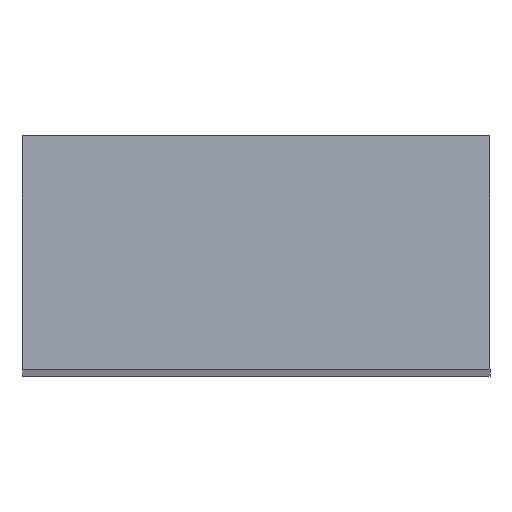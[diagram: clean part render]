
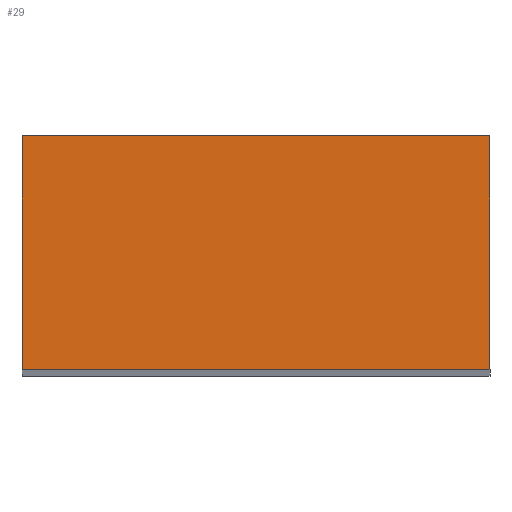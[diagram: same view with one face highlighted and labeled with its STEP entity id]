
A CAD part, top view. The second image highlights one B-rep face of the part: STEP entity #29.
In plain terms, the highlighted planar face has unit normal (0, 0, 1).
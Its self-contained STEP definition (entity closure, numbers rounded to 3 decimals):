
#29=ADVANCED_FACE('',(#35),#187,.T.);
#35=FACE_OUTER_BOUND('',#41,.T.);
#41=EDGE_LOOP('',(#62,#63,#64,#65));
#62=ORIENTED_EDGE('',*,*,#128,.F.);
#63=ORIENTED_EDGE('',*,*,#132,.F.);
#64=ORIENTED_EDGE('',*,*,#135,.F.);
#65=ORIENTED_EDGE('',*,*,#137,.F.);
#68=PCURVE('',#182,#92);
#72=PCURVE('',#183,#96);
#76=PCURVE('',#184,#100);
#80=PCURVE('',#185,#104);
#86=PCURVE('',#187,#110);
#87=PCURVE('',#187,#111);
#88=PCURVE('',#187,#112);
#89=PCURVE('',#187,#113);
#92=DEFINITIONAL_REPRESENTATION('',(#143),#313);
#96=DEFINITIONAL_REPRESENTATION('',(#151),#313);
#100=DEFINITIONAL_REPRESENTATION('',(#158),#313);
#104=DEFINITIONAL_REPRESENTATION('',(#164),#313);
#110=DEFINITIONAL_REPRESENTATION('',(#170),#313);
#111=DEFINITIONAL_REPRESENTATION('',(#171),#313);
#112=DEFINITIONAL_REPRESENTATION('',(#172),#313);
#113=DEFINITIONAL_REPRESENTATION('',(#173),#313);
#116=SURFACE_CURVE('',#142,(#68,#86),.PCURVE_S1.);
#120=SURFACE_CURVE('',#150,(#72,#87),.PCURVE_S1.);
#123=SURFACE_CURVE('',#157,(#76,#88),.PCURVE_S1.);
#125=SURFACE_CURVE('',#163,(#80,#89),.PCURVE_S1.);
#128=EDGE_CURVE('',#176,#177,#116,.T.);
#132=EDGE_CURVE('',#179,#176,#120,.T.);
#135=EDGE_CURVE('',#181,#179,#123,.T.);
#137=EDGE_CURVE('',#177,#181,#125,.T.);
#142=B_SPLINE_CURVE_WITH_KNOTS('',1,(#248,#249),.UNSPECIFIED.,.F.,.F.,(2,
2),(-18.,0.),.UNSPECIFIED.);
#143=B_SPLINE_CURVE_WITH_KNOTS('',1,(#250,#251),.UNSPECIFIED.,.F.,.F.,(2,
2),(-18.,0.),.UNSPECIFIED.);
#150=B_SPLINE_CURVE_WITH_KNOTS('',1,(#264,#265),.UNSPECIFIED.,.F.,.F.,(2,
2),(-218.,-18.),.UNSPECIFIED.);
#151=B_SPLINE_CURVE_WITH_KNOTS('',1,(#266,#267),.UNSPECIFIED.,.F.,.F.,(2,
2),(-218.,-18.),.UNSPECIFIED.);
#157=B_SPLINE_CURVE_WITH_KNOTS('',1,(#278,#279),.UNSPECIFIED.,.F.,.F.,(2,
2),(-236.,-218.),.UNSPECIFIED.);
#158=B_SPLINE_CURVE_WITH_KNOTS('',1,(#280,#281),.UNSPECIFIED.,.F.,.F.,(2,
2),(-236.,-218.),.UNSPECIFIED.);
#163=B_SPLINE_CURVE_WITH_KNOTS('',1,(#290,#291),.UNSPECIFIED.,.F.,.F.,(2,
2),(-436.,-236.),.UNSPECIFIED.);
#164=B_SPLINE_CURVE_WITH_KNOTS('',1,(#292,#293),.UNSPECIFIED.,.F.,.F.,(2,
2),(-436.,-236.),.UNSPECIFIED.);
#170=B_SPLINE_CURVE_WITH_KNOTS('',1,(#304,#305),.UNSPECIFIED.,.F.,.F.,(2,
2),(-18.,0.),.UNSPECIFIED.);
#171=B_SPLINE_CURVE_WITH_KNOTS('',1,(#306,#307),.UNSPECIFIED.,.F.,.F.,(2,
2),(-218.,-18.),.UNSPECIFIED.);
#172=B_SPLINE_CURVE_WITH_KNOTS('',1,(#308,#309),.UNSPECIFIED.,.F.,.F.,(2,
2),(-236.,-218.),.UNSPECIFIED.);
#173=B_SPLINE_CURVE_WITH_KNOTS('',1,(#310,#311),.UNSPECIFIED.,.F.,.F.,(2,
2),(-436.,-236.),.UNSPECIFIED.);
#176=VERTEX_POINT('',#234);
#177=VERTEX_POINT('',#235);
#179=VERTEX_POINT('',#237);
#181=VERTEX_POINT('',#239);
#182=PLANE('',#208);
#183=PLANE('',#209);
#184=PLANE('',#210);
#185=PLANE('',#211);
#187=PLANE('',#213);
#208=AXIS2_PLACEMENT_3D('',#226,#217,$);
#209=AXIS2_PLACEMENT_3D('',#227,#218,$);
#210=AXIS2_PLACEMENT_3D('',#228,#219,$);
#211=AXIS2_PLACEMENT_3D('',#229,#220,$);
#213=AXIS2_PLACEMENT_3D('',#231,#222,$);
#217=DIRECTION('',(0.,-1.,0.));
#218=DIRECTION('',(1.,0.,0.));
#219=DIRECTION('',(0.,1.,0.));
#220=DIRECTION('',(-1.,0.,0.));
#222=DIRECTION('',(0.,0.,1.));
#226=CARTESIAN_POINT('',(-20.,565.,-160.));
#227=CARTESIAN_POINT('',(20.,565.,-160.));
#228=CARTESIAN_POINT('',(20.,585.,-160.));
#229=CARTESIAN_POINT('',(-20.,585.,-160.));
#231=CARTESIAN_POINT('',(-20.,565.,160.));
#234=CARTESIAN_POINT('',(20.,565.,160.));
#235=CARTESIAN_POINT('',(-20.,565.,160.));
#237=CARTESIAN_POINT('',(20.,585.,160.));
#239=CARTESIAN_POINT('',(-20.,585.,160.));
#248=CARTESIAN_POINT('',(20.,565.,160.));
#249=CARTESIAN_POINT('',(-20.,565.,160.));
#250=CARTESIAN_POINT('',(18.,160.));
#251=CARTESIAN_POINT('',(0.,160.));
#264=CARTESIAN_POINT('',(20.,585.,160.));
#265=CARTESIAN_POINT('',(20.,565.,160.));
#266=CARTESIAN_POINT('',(218.,160.));
#267=CARTESIAN_POINT('',(18.,160.));
#278=CARTESIAN_POINT('',(-20.,585.,160.));
#279=CARTESIAN_POINT('',(20.,585.,160.));
#280=CARTESIAN_POINT('',(236.,160.));
#281=CARTESIAN_POINT('',(218.,160.));
#290=CARTESIAN_POINT('',(-20.,565.,160.));
#291=CARTESIAN_POINT('',(-20.,585.,160.));
#292=CARTESIAN_POINT('',(436.,160.));
#293=CARTESIAN_POINT('',(236.,160.));
#304=CARTESIAN_POINT('',(40.,0.));
#305=CARTESIAN_POINT('',(0.,0.));
#306=CARTESIAN_POINT('',(40.,20.));
#307=CARTESIAN_POINT('',(40.,0.));
#308=CARTESIAN_POINT('',(0.,20.));
#309=CARTESIAN_POINT('',(40.,20.));
#310=CARTESIAN_POINT('',(0.,0.));
#311=CARTESIAN_POINT('',(0.,20.));
#313=(
GEOMETRIC_REPRESENTATION_CONTEXT(2)
PARAMETRIC_REPRESENTATION_CONTEXT()
REPRESENTATION_CONTEXT('pspace','')
);
